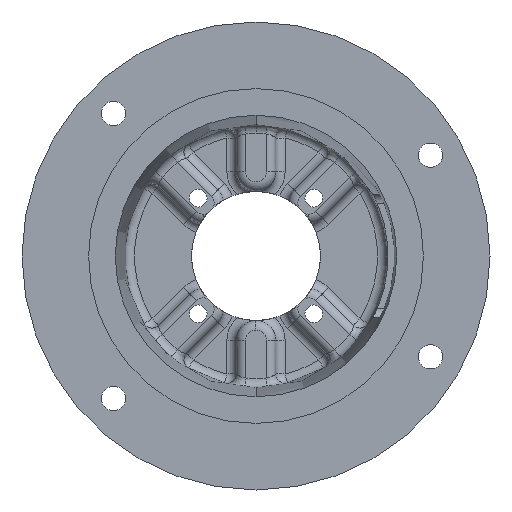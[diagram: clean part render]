
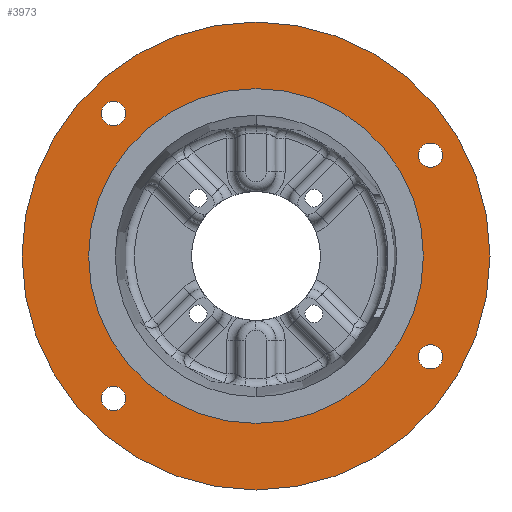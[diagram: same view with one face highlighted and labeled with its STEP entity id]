
A CAD part, front view. The second image highlights one B-rep face of the part: STEP entity #3973.
In plain terms, the highlighted planar face has unit normal (0, -1, 0).
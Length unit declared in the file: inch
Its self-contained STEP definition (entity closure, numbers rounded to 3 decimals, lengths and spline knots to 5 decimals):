
#146 = FACE_BOUND ( 'NONE', #328, .T. ) ;
#161 = DIRECTION ( 'NONE',  ( 0., -1., 0. ) ) ;
#188 = DIRECTION ( 'NONE',  ( 0., -1., 0. ) ) ;
#205 = CIRCLE ( 'NONE', #4741, 3.2195 ) ;
#225 = CARTESIAN_POINT ( 'NONE',  ( 3.35585, 0., 1.9375 ) ) ;
#328 = EDGE_LOOP ( 'NONE', ( #359, #2616 ) ) ;
#359 = ORIENTED_EDGE ( 'NONE', *, *, #1624, .F. ) ;
#482 = FACE_BOUND ( 'NONE', #1228, .T. ) ;
#652 = ORIENTED_EDGE ( 'NONE', *, *, #3972, .F. ) ;
#695 = VERTEX_POINT ( 'NONE', #5463 ) ;
#764 = DIRECTION ( 'NONE',  ( 0., 0., -1. ) ) ;
#941 = EDGE_CURVE ( 'NONE', #6408, #4187, #2411, .T. ) ;
#975 = AXIS2_PLACEMENT_3D ( 'NONE', #2030, #6911, #3699 ) ;
#992 = EDGE_CURVE ( 'NONE', #4820, #4024, #6547, .T. ) ;
#1018 = EDGE_CURVE ( 'NONE', #1636, #3776, #5109, .T. ) ;
#1096 = AXIS2_PLACEMENT_3D ( 'NONE', #1924, #5697, #2477 ) ;
#1228 = EDGE_LOOP ( 'NONE', ( #4087, #4164 ) ) ;
#1319 = DIRECTION ( 'NONE',  ( 0., -1., 0. ) ) ;
#1367 = DIRECTION ( 'NONE',  ( 0., -1., 0. ) ) ;
#1398 = EDGE_CURVE ( 'NONE', #4024, #4820, #2154, .T. ) ;
#1564 = FACE_BOUND ( 'NONE', #4413, .T. ) ;
#1592 = CARTESIAN_POINT ( 'NONE',  ( 3.35585, 0., 1.9375 ) ) ;
#1624 = EDGE_CURVE ( 'NONE', #3776, #1636, #205, .T. ) ;
#1636 = VERTEX_POINT ( 'NONE', #5901 ) ;
#1843 = AXIS2_PLACEMENT_3D ( 'NONE', #2890, #6658, #3436 ) ;
#1911 = ORIENTED_EDGE ( 'NONE', *, *, #941, .F. ) ;
#1924 = CARTESIAN_POINT ( 'NONE',  ( -2.74004, 0., 2.74004 ) ) ;
#2030 = CARTESIAN_POINT ( 'NONE',  ( -4.5, 0., 0. ) ) ;
#2050 = PLANE ( 'NONE',  #975 ) ;
#2107 = AXIS2_PLACEMENT_3D ( 'NONE', #225, #4014, #764 ) ;
#2154 = CIRCLE ( 'NONE', #1096, 0.23438 ) ;
#2155 = DIRECTION ( 'NONE',  ( 0., 0., -1. ) ) ;
#2227 = CARTESIAN_POINT ( 'NONE',  ( 0., 0., 4.5 ) ) ;
#2329 = AXIS2_PLACEMENT_3D ( 'NONE', #3435, #188, #3982 ) ;
#2411 = CIRCLE ( 'NONE', #2107, 0.23438 ) ;
#2477 = DIRECTION ( 'NONE',  ( 0., 0., -1. ) ) ;
#2518 = DIRECTION ( 'NONE',  ( 0., -1., 0. ) ) ;
#2545 = AXIS2_PLACEMENT_3D ( 'NONE', #4575, #1319, #5112 ) ;
#2562 = CARTESIAN_POINT ( 'NONE',  ( 0., 0., -4.5 ) ) ;
#2600 = CARTESIAN_POINT ( 'NONE',  ( 3.35585, 0., -1.9375 ) ) ;
#2616 = ORIENTED_EDGE ( 'NONE', *, *, #1018, .F. ) ;
#2677 = EDGE_LOOP ( 'NONE', ( #1911, #6920 ) ) ;
#2736 = CIRCLE ( 'NONE', #5745, 4.5 ) ;
#2764 = VERTEX_POINT ( 'NONE', #3137 ) ;
#2843 = AXIS2_PLACEMENT_3D ( 'NONE', #6209, #2996, #6759 ) ;
#2890 = CARTESIAN_POINT ( 'NONE',  ( 0., 0., 0. ) ) ;
#2996 = DIRECTION ( 'NONE',  ( 0., -1., 0. ) ) ;
#3027 = VERTEX_POINT ( 'NONE', #6553 ) ;
#3028 = FACE_BOUND ( 'NONE', #3582, .T. ) ;
#3137 = CARTESIAN_POINT ( 'NONE',  ( 3.35585, 0., -1.70312 ) ) ;
#3149 = DIRECTION ( 'NONE',  ( 0., 0., -1. ) ) ;
#3198 = AXIS2_PLACEMENT_3D ( 'NONE', #4623, #1367, #5166 ) ;
#3231 = DIRECTION ( 'NONE',  ( 0., -1., 0. ) ) ;
#3359 = EDGE_CURVE ( 'NONE', #3027, #2764, #5860, .T. ) ;
#3406 = CARTESIAN_POINT ( 'NONE',  ( 0., 0., 0. ) ) ;
#3435 = CARTESIAN_POINT ( 'NONE',  ( -2.74004, 0., -2.74004 ) ) ;
#3436 = DIRECTION ( 'NONE',  ( 0., 0., -1. ) ) ;
#3582 = EDGE_LOOP ( 'NONE', ( #3721, #5129 ) ) ;
#3699 = DIRECTION ( 'NONE',  ( 0., 0., 1. ) ) ;
#3708 = CIRCLE ( 'NONE', #3909, 0.23438 ) ;
#3721 = ORIENTED_EDGE ( 'NONE', *, *, #1398, .F. ) ;
#3722 = EDGE_CURVE ( 'NONE', #6713, #6680, #4026, .T. ) ;
#3776 = VERTEX_POINT ( 'NONE', #3999 ) ;
#3909 = AXIS2_PLACEMENT_3D ( 'NONE', #1592, #5381, #2155 ) ;
#3940 = AXIS2_PLACEMENT_3D ( 'NONE', #5733, #2518, #6274 ) ;
#3957 = DIRECTION ( 'NONE',  ( 0., 0., -1. ) ) ;
#3972 = EDGE_CURVE ( 'NONE', #2764, #3027, #4466, .T. ) ;
#3973 = ADVANCED_FACE ( 'NONE', ( #5872, #1564, #482, #3028, #146, #5708 ), #2050, .F. ) ;
#3982 = DIRECTION ( 'NONE',  ( 0., 0., -1. ) ) ;
#3999 = CARTESIAN_POINT ( 'NONE',  ( 0., 0., -3.2195 ) ) ;
#4014 = DIRECTION ( 'NONE',  ( 0., -1., 0. ) ) ;
#4024 = VERTEX_POINT ( 'NONE', #4796 ) ;
#4026 = CIRCLE ( 'NONE', #1843, 4.5 ) ;
#4087 = ORIENTED_EDGE ( 'NONE', *, *, #5022, .F. ) ;
#4164 = ORIENTED_EDGE ( 'NONE', *, *, #6838, .F. ) ;
#4187 = VERTEX_POINT ( 'NONE', #5191 ) ;
#4413 = EDGE_LOOP ( 'NONE', ( #6505, #652 ) ) ;
#4466 = CIRCLE ( 'NONE', #6912, 0.23438 ) ;
#4552 = EDGE_CURVE ( 'NONE', #4187, #6408, #3708, .T. ) ;
#4575 = CARTESIAN_POINT ( 'NONE',  ( -2.74004, 0., -2.74004 ) ) ;
#4623 = CARTESIAN_POINT ( 'NONE',  ( 0., 0., 0. ) ) ;
#4741 = AXIS2_PLACEMENT_3D ( 'NONE', #6453, #3231, #6997 ) ;
#4796 = CARTESIAN_POINT ( 'NONE',  ( -2.74004, 0., 2.50566 ) ) ;
#4820 = VERTEX_POINT ( 'NONE', #6701 ) ;
#4865 = ORIENTED_EDGE ( 'NONE', *, *, #6003, .T. ) ;
#4966 = CARTESIAN_POINT ( 'NONE',  ( 3.35585, 0., 1.70313 ) ) ;
#5022 = EDGE_CURVE ( 'NONE', #6213, #695, #5036, .T. ) ;
#5036 = CIRCLE ( 'NONE', #2545, 0.23437 ) ;
#5109 = CIRCLE ( 'NONE', #3198, 3.2195 ) ;
#5112 = DIRECTION ( 'NONE',  ( 0., 0., -1. ) ) ;
#5129 = ORIENTED_EDGE ( 'NONE', *, *, #992, .F. ) ;
#5166 = DIRECTION ( 'NONE',  ( 0., 0., -1. ) ) ;
#5189 = ORIENTED_EDGE ( 'NONE', *, *, #3722, .T. ) ;
#5191 = CARTESIAN_POINT ( 'NONE',  ( 3.35585, 0., 2.17188 ) ) ;
#5381 = DIRECTION ( 'NONE',  ( 0., -1., 0. ) ) ;
#5463 = CARTESIAN_POINT ( 'NONE',  ( -2.74004, 0., -2.50566 ) ) ;
#5697 = DIRECTION ( 'NONE',  ( 0., -1., 0. ) ) ;
#5708 = FACE_OUTER_BOUND ( 'NONE', #6522, .T. ) ;
#5733 = CARTESIAN_POINT ( 'NONE',  ( 3.35585, 0., -1.9375 ) ) ;
#5745 = AXIS2_PLACEMENT_3D ( 'NONE', #3406, #161, #3957 ) ;
#5860 = CIRCLE ( 'NONE', #3940, 0.23438 ) ;
#5872 = FACE_BOUND ( 'NONE', #2677, .T. ) ;
#5901 = CARTESIAN_POINT ( 'NONE',  ( 0., 0., 3.2195 ) ) ;
#6003 = EDGE_CURVE ( 'NONE', #6680, #6713, #2736, .T. ) ;
#6170 = CIRCLE ( 'NONE', #2329, 0.23437 ) ;
#6209 = CARTESIAN_POINT ( 'NONE',  ( -2.74004, 0., 2.74004 ) ) ;
#6213 = VERTEX_POINT ( 'NONE', #6840 ) ;
#6274 = DIRECTION ( 'NONE',  ( 0., 0., -1. ) ) ;
#6364 = DIRECTION ( 'NONE',  ( 0., -1., 0. ) ) ;
#6408 = VERTEX_POINT ( 'NONE', #4966 ) ;
#6453 = CARTESIAN_POINT ( 'NONE',  ( 0., 0., 0. ) ) ;
#6505 = ORIENTED_EDGE ( 'NONE', *, *, #3359, .F. ) ;
#6522 = EDGE_LOOP ( 'NONE', ( #4865, #5189 ) ) ;
#6547 = CIRCLE ( 'NONE', #2843, 0.23438 ) ;
#6553 = CARTESIAN_POINT ( 'NONE',  ( 3.35585, 0., -2.17187 ) ) ;
#6658 = DIRECTION ( 'NONE',  ( 0., -1., 0. ) ) ;
#6680 = VERTEX_POINT ( 'NONE', #2562 ) ;
#6701 = CARTESIAN_POINT ( 'NONE',  ( -2.74004, 0., 2.97441 ) ) ;
#6713 = VERTEX_POINT ( 'NONE', #2227 ) ;
#6759 = DIRECTION ( 'NONE',  ( 0., 0., -1. ) ) ;
#6838 = EDGE_CURVE ( 'NONE', #695, #6213, #6170, .T. ) ;
#6840 = CARTESIAN_POINT ( 'NONE',  ( -2.74004, 0., -2.97441 ) ) ;
#6911 = DIRECTION ( 'NONE',  ( 0., 1., 0. ) ) ;
#6912 = AXIS2_PLACEMENT_3D ( 'NONE', #2600, #6364, #3149 ) ;
#6920 = ORIENTED_EDGE ( 'NONE', *, *, #4552, .F. ) ;
#6997 = DIRECTION ( 'NONE',  ( 0., 0., -1. ) ) ;
